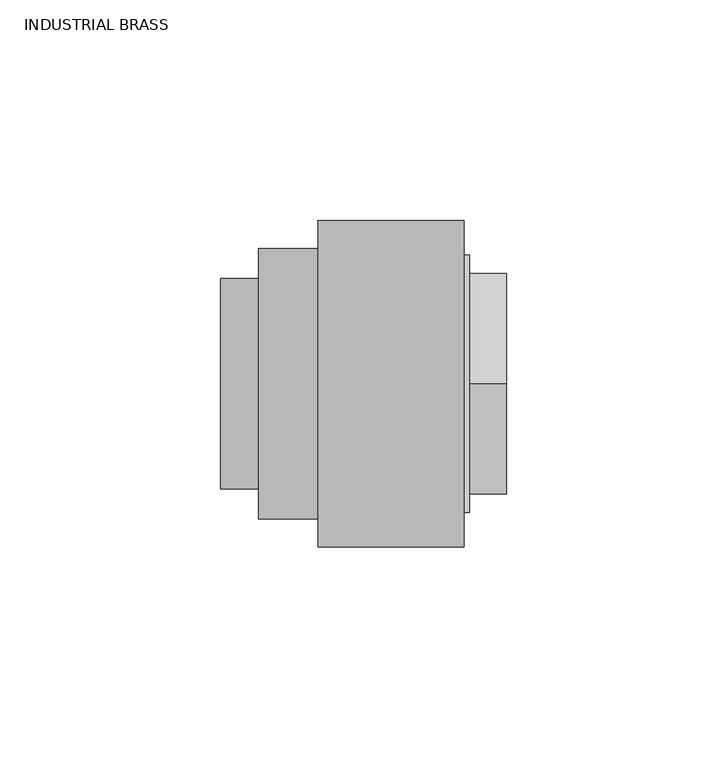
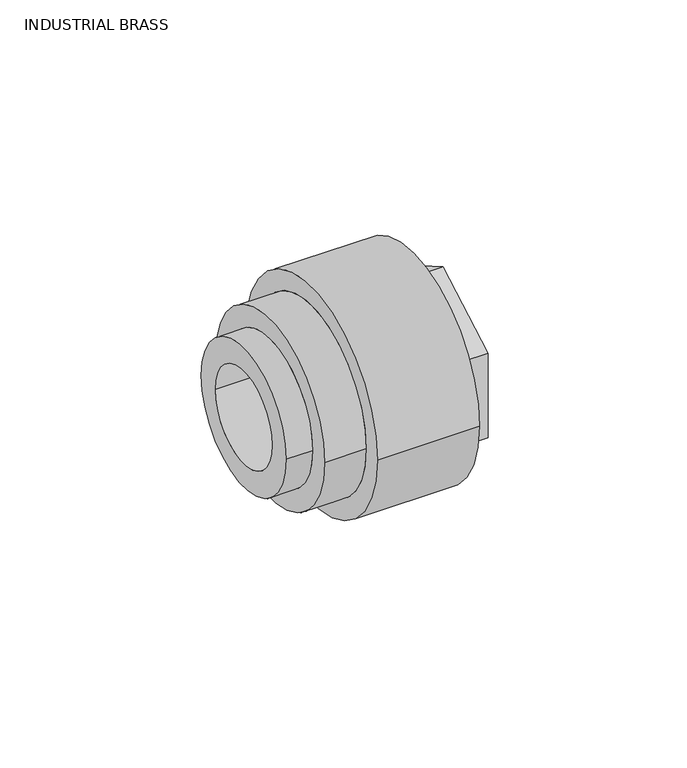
"""IFC4 building model written with IfcOpenShell, lengths in millimetres: pipe fitting geometry, Aquatherm - Flow Meter Well : INDUSTRIAL BRASS."""

from ifc_helpers import new_model, si_unit, frame, origin, place, context, project, spatial, polyline, circle_curve, source, transform, mapped, element, save
from ifc_brep_helpers import plane_surface, cylinder_surface, revolved_surface, advanced_brep


def industrial_brass_1ba0aa93(model_context):
    return source(origin(), model_context, "Body", "AdvancedBrep", [
        advanced_brep(
        [(37.87775, 19.05, 0.0), (37.87775, -19.05, 0.0), (53.5543125, -19.05, 0.0), (53.5543125, 19.05, 0.0), (37.87775, 19.84375, 0.0), (37.87775, -19.84375, 0.0), (34.70275, 19.84375, 0.0), (34.70275, -19.84375, 0.0), (34.70275, 15.875, 0.0), (34.70275, -15.875, 0.0), (31.52775, 15.875, 0.0), (31.52775, -15.875, 0.0), (31.52775, 30.607, 0.0), (31.52775, -30.607, 0.0), (46.609, 30.607, 0.0), (46.609, -30.607, 0.0), (56.134, 19.84375, 0.0), (56.134, -19.84375, 0.0), (56.134, -25.019, 0.0), (56.134, -25.019, -14.4447264), (56.134, 0.0, -28.8894528), (56.134, 25.019, -14.4447264), (56.134, 25.019, 0.0), (56.134, 25.019, 14.4447264), (56.134, 0.0, 28.8894528), (56.134, -25.019, 14.4447264), (46.609, 29.21, 0.0), (46.609, -29.21, 0.0), (47.799625, 29.21, 0.0), (47.799625, -29.21, 0.0), (47.799625, 0.0, -28.8894528), (47.799625, -25.019, -14.4447264), (47.799625, -25.019, 14.4447264), (47.799625, 0.0, 28.8894528), (47.799625, 25.019, 14.4447264), (47.799625, 25.019, -14.4447264)],
        [
            (0, 1, circle_curve(frame((37.87775, 0.0, 0.0), z_axis=(-1.0, 0.0, 0.0), x_axis=(0.0, -1.0, 0.0)), 19.05)),
            (1, 2),
            (2, 3, circle_curve(frame((53.5543125, 0.0, 0.0), z_axis=(1.0, 0.0, 0.0), x_axis=(0.0, -1.0, 0.0)), 19.05)),
            (3, 0),
            (1, 0, circle_curve(frame((37.87775, 0.0, 0.0), z_axis=(-1.0, 0.0, 0.0), x_axis=(0.0, -1.0, 0.0)), 19.05)),
            (3, 2, circle_curve(frame((53.5543125, 0.0, 0.0), z_axis=(1.0, 0.0, 0.0), x_axis=(0.0, -1.0, 0.0)), 19.05)),
            (0, 4),
            (4, 5, circle_curve(frame((37.87775, 0.0, 0.0), z_axis=(-1.0, 0.0, 0.0), x_axis=(0.0, -1.0, 0.0)), 19.84375)),
            (5, 1),
            (5, 4, circle_curve(frame((37.87775, 0.0, 0.0), z_axis=(-1.0, 0.0, 0.0), x_axis=(0.0, -1.0, 0.0)), 19.84375)),
            (4, 6),
            (6, 7, circle_curve(frame((34.70275, 0.0, 0.0), z_axis=(-1.0, 0.0, 0.0), x_axis=(0.0, -1.0, 0.0)), 19.84375)),
            (7, 5),
            (7, 6, circle_curve(frame((34.70275, 0.0, 0.0), z_axis=(-1.0, 0.0, 0.0), x_axis=(0.0, -1.0, 0.0)), 19.84375)),
            (6, 8),
            (8, 9, circle_curve(frame((34.70275, 0.0, 0.0), z_axis=(-1.0, 0.0, 0.0), x_axis=(0.0, -1.0, 0.0)), 15.875)),
            (9, 7),
            (9, 8, circle_curve(frame((34.70275, 0.0, 0.0), z_axis=(-1.0, 0.0, 0.0), x_axis=(0.0, -1.0, 0.0)), 15.875)),
            (8, 10),
            (10, 11, circle_curve(frame((31.52775, 0.0, 0.0), z_axis=(-1.0, 0.0, 0.0), x_axis=(0.0, -1.0, 0.0)), 15.875)),
            (11, 9),
            (11, 10, circle_curve(frame((31.52775, 0.0, 0.0), z_axis=(-1.0, 0.0, 0.0), x_axis=(0.0, -1.0, 0.0)), 15.875)),
            (10, 12),
            (12, 13, circle_curve(frame((31.52775, 0.0, 0.0), z_axis=(-1.0, 0.0, 0.0), x_axis=(0.0, -1.0, 0.0)), 30.607)),
            (13, 11),
            (13, 12, circle_curve(frame((31.52775, 0.0, 0.0), z_axis=(-1.0, 0.0, 0.0), x_axis=(0.0, -1.0, 0.0)), 30.607)),
            (12, 14),
            (14, 15, circle_curve(frame((46.609, 0.0, 0.0), z_axis=(-1.0, 0.0, 0.0), x_axis=(0.0, -1.0, 0.0)), 30.607)),
            (15, 13),
            (15, 14, circle_curve(frame((46.609, 0.0, 0.0), z_axis=(-1.0, 0.0, 0.0), x_axis=(0.0, -1.0, 0.0)), 30.607)),
            (16, 17, circle_curve(frame((56.134, 0.0, 0.0), z_axis=(-1.0, 0.0, 0.0), x_axis=(0.0, -1.0, 0.0)), 19.84375)),
            (17, 18),
            (18, 19),
            (19, 20),
            (20, 21),
            (21, 22),
            (22, 16),
            (17, 16, circle_curve(frame((56.134, 0.0, 0.0), z_axis=(-1.0, 0.0, 0.0), x_axis=(0.0, -1.0, 0.0)), 19.84375)),
            (22, 23),
            (23, 24),
            (24, 25),
            (25, 18),
            (2, 17),
            (16, 3),
            (14, 26),
            (26, 27, circle_curve(frame((46.609, 0.0, 0.0), z_axis=(-1.0, 0.0, 0.0), x_axis=(0.0, -1.0, 0.0)), 29.21)),
            (27, 15),
            (27, 26, circle_curve(frame((46.609, 0.0, 0.0), z_axis=(-1.0, 0.0, 0.0), x_axis=(0.0, -1.0, 0.0)), 29.21)),
            (26, 28),
            (28, 29, circle_curve(frame((47.799625, 0.0, 0.0), z_axis=(-1.0, 0.0, 0.0), x_axis=(0.0, -1.0, 0.0)), 29.21)),
            (29, 27),
            (29, 28, circle_curve(frame((47.799625, 0.0, 0.0), z_axis=(-1.0, 0.0, 0.0), x_axis=(0.0, -1.0, 0.0)), 29.21)),
            (30, 31),
            (31, 32),
            (32, 33),
            (33, 34),
            (34, 35),
            (35, 30),
            (35, 21),
            (20, 30),
            (34, 23),
            (33, 24),
            (32, 25),
            (31, 19),
        ],
        [
            revolved_surface(polyline([(53.5543125, -19.05, 0.0), (37.87775, -19.05, 0.0)]), (57.9672251, 0.0, 0.0), (1.0, 0.0, 0.0)),
            plane_surface(frame((37.87775, 0.0, 0.0), z_axis=(-1.0, 0.0, 0.0), x_axis=(0.0, -1.0, 0.0))),
            revolved_surface(polyline([(37.87775, -19.84375, 0.0), (34.70275, -19.84375, 0.0)]), (57.9672251, 0.0, 0.0), (1.0, 0.0, 0.0)),
            plane_surface(frame((34.70275, 0.0, 0.0), z_axis=(1.0, 0.0, 0.0), x_axis=(0.0, -1.0, 0.0))),
            revolved_surface(polyline([(34.70275, -15.875, 0.0), (31.52775, -15.875, 0.0)]), (57.9672251, 0.0, 0.0), (1.0, 0.0, 0.0)),
            plane_surface(frame((31.52775, 0.0, 0.0), z_axis=(-1.0, 0.0, 0.0), x_axis=(0.0, -1.0, 0.0))),
            cylinder_surface(frame((57.9672251, 0.0, 0.0), z_axis=(1.0, 0.0, 0.0), x_axis=(0.0, -1.0, 0.0)), 30.607),
            plane_surface(frame((56.134, 0.0, 0.0), z_axis=(1.0, 0.0, 0.0), x_axis=(0.0, -1.0, 0.0))),
            revolved_surface(polyline([(56.134, -19.84375, 0.0), (53.5543125, -19.05, 0.0)]), (57.9672251, 0.0, 0.0), (1.0, 0.0, 0.0)),
            plane_surface(frame((46.609, 0.0, 0.0), z_axis=(1.0, 0.0, 0.0), x_axis=(0.0, -1.0, 0.0))),
            cylinder_surface(frame((57.9672251, 0.0, 0.0), z_axis=(1.0, 0.0, 0.0), x_axis=(0.0, -1.0, 0.0)), 29.21),
            plane_surface(frame((47.799625, 25.019, -14.4447264), z_axis=(1.0000000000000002, 0.0, 0.0), x_axis=(0.0, 0.8660254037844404, 0.4999999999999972))),
            plane_surface(frame((47.799625, 0.0, -28.8894528), z_axis=(0.0, 0.4999999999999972, -0.8660254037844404), x_axis=(1.0, 0.0, 0.0))),
            plane_surface(frame((47.799625, 25.019, -14.4447264), z_axis=(0.0, 1.0, 0.0), x_axis=(1.0, 0.0, 0.0))),
            plane_surface(frame((47.799625, 25.019, 14.4447264), z_axis=(0.0, 0.5000000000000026, 0.8660254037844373), x_axis=(1.0, 0.0, 0.0))),
            plane_surface(frame((47.799625, 0.0, 28.8894528), z_axis=(0.0, -0.4999999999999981, 0.8660254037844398), x_axis=(1.0, 0.0, 0.0))),
            plane_surface(frame((47.799625, -25.019, 14.4447264), z_axis=(0.0, -1.0, 0.0), x_axis=(1.0, 0.0, 0.0))),
            plane_surface(frame((47.799625, -25.019, -14.4447264), z_axis=(0.0, -0.5000000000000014, -0.8660254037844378), x_axis=(1.0, 0.0, 0.0))),
        ],
        [
            (0, [[1, 2, 3, 4]]),
            (0, [[-2, 5, -4, 6]]),
            (1, [[-1, 7, 8, 9]]),
            (1, [[-5, -9, 10, -7]]),
            (2, [[-8, 11, 12, 13]]),
            (2, [[-10, -13, 14, -11]]),
            (3, [[-12, 15, 16, 17]]),
            (3, [[-14, -17, 18, -15]]),
            (4, [[-16, 19, 20, 21]]),
            (4, [[-18, -21, 22, -19]]),
            (5, [[-20, 23, 24, 25]]),
            (5, [[-22, -25, 26, -23]]),
            (6, [[-24, 27, 28, 29]]),
            (6, [[-26, -29, 30, -27]]),
            (7, [[31, 32, 33, 34, 35, 36, 37]]),
            (7, [[38, -37, 39, 40, 41, 42, -32]]),
            (8, [[-3, 43, -31, 44]]),
            (8, [[-6, -44, -38, -43]]),
            (9, [[-28, 45, 46, 47]]),
            (9, [[-30, -47, 48, -45]]),
            (10, [[-46, 49, 50, 51]]),
            (10, [[-48, -51, 52, -49]]),
            (11, [[-50, -52], [53, 54, 55, 56, 57, 58]]),
            (12, [[-58, 59, -35, 60]]),
            (13, [[-57, 61, -39, -36, -59]]),
            (14, [[-56, 62, -40, -61]]),
            (15, [[-55, 63, -41, -62]]),
            (16, [[-54, 64, -33, -42, -63]]),
            (17, [[-53, -60, -34, -64]]),
        ],
    ),
        advanced_brep(
        [(-8.5810811, 23.8125, 0.0), (-8.5810811, -23.8125, 0.0), (-8.5810811, 15.875, 0.0), (-8.5810811, -15.875, 0.0), (31.52775, 30.607, 0.0), (31.52775, -30.607, 0.0), (31.52775, 15.875, 0.0), (31.52775, -15.875, 0.0), (0.0, 23.8125, 0.0), (0.0, -23.8125, 0.0), (46.609, 36.957, 0.0), (46.609, -36.957, 0.0), (46.609, 30.607, 0.0), (46.609, -30.607, 0.0), (13.462, 36.957, 0.0), (13.462, -36.957, 0.0), (13.462, -30.607, 0.0), (13.462, 30.607, 0.0), (0.0, 30.607, 0.0), (0.0, -30.607, 0.0)],
        [
            (0, 1, circle_curve(frame((-8.5810811, 0.0, 0.0), z_axis=(-1.0, 0.0, 0.0), x_axis=(0.0, -1.0, 0.0)), 23.8125)),
            (1, 0, circle_curve(frame((-8.5810811, 0.0, 0.0), z_axis=(-1.0, 0.0, 0.0), x_axis=(0.0, -1.0, 0.0)), 23.8125)),
            (2, 3, circle_curve(frame((-8.5810811, 0.0, 0.0), z_axis=(1.0, 0.0, 0.0), x_axis=(0.0, -1.0, 0.0)), 15.875)),
            (3, 2, circle_curve(frame((-8.5810811, 0.0, 0.0), z_axis=(1.0, 0.0, 0.0), x_axis=(0.0, -1.0, 0.0)), 15.875)),
            (4, 5, circle_curve(frame((31.52775, 0.0, 0.0), z_axis=(1.0, 0.0, 0.0), x_axis=(0.0, -1.0, 0.0)), 30.607)),
            (5, 4, circle_curve(frame((31.52775, 0.0, 0.0), z_axis=(1.0, 0.0, 0.0), x_axis=(0.0, -1.0, 0.0)), 30.607)),
            (6, 7, circle_curve(frame((31.52775, 0.0, 0.0), z_axis=(-1.0, 0.0, 0.0), x_axis=(0.0, -1.0, 0.0)), 15.875)),
            (7, 6, circle_curve(frame((31.52775, 0.0, 0.0), z_axis=(-1.0, 0.0, 0.0), x_axis=(0.0, -1.0, 0.0)), 15.875)),
            (2, 6),
            (7, 3),
            (0, 8),
            (8, 9, circle_curve(frame((0.0, 0.0, 0.0), z_axis=(-1.0, 0.0, 0.0), x_axis=(0.0, -1.0, 0.0)), 23.8125)),
            (9, 1),
            (9, 8, circle_curve(frame((0.0, 0.0, 0.0), z_axis=(-1.0, 0.0, 0.0), x_axis=(0.0, -1.0, 0.0)), 23.8125)),
            (10, 11, circle_curve(frame((46.609, 0.0, 0.0), z_axis=(1.0, 0.0, 0.0), x_axis=(0.0, -1.0, 0.0)), 36.957)),
            (11, 10, circle_curve(frame((46.609, 0.0, 0.0), z_axis=(1.0, 0.0, 0.0), x_axis=(0.0, -1.0, 0.0)), 36.957)),
            (12, 13, circle_curve(frame((46.609, 0.0, 0.0), z_axis=(-1.0, 0.0, 0.0), x_axis=(0.0, -1.0, 0.0)), 30.607)),
            (13, 12, circle_curve(frame((46.609, 0.0, 0.0), z_axis=(-1.0, 0.0, 0.0), x_axis=(0.0, -1.0, 0.0)), 30.607)),
            (14, 15, circle_curve(frame((13.462, 0.0, 0.0), z_axis=(-1.0, 0.0, 0.0), x_axis=(0.0, -1.0, 0.0)), 36.957)),
            (15, 14, circle_curve(frame((13.462, 0.0, 0.0), z_axis=(-1.0, 0.0, 0.0), x_axis=(0.0, -1.0, 0.0)), 36.957)),
            (16, 17, circle_curve(frame((13.462, 0.0, 0.0), z_axis=(1.0, 0.0, 0.0), x_axis=(0.0, -1.0, 0.0)), 30.607)),
            (17, 16, circle_curve(frame((13.462, 0.0, 0.0), z_axis=(1.0, 0.0, 0.0), x_axis=(0.0, -1.0, 0.0)), 30.607)),
            (13, 5),
            (4, 12),
            (11, 15),
            (14, 10),
            (18, 19, circle_curve(frame((0.0, 0.0, 0.0), z_axis=(-1.0, 0.0, 0.0), x_axis=(0.0, -1.0, 0.0)), 30.607)),
            (19, 18, circle_curve(frame((0.0, 0.0, 0.0), z_axis=(-1.0, 0.0, 0.0), x_axis=(0.0, -1.0, 0.0)), 30.607)),
            (18, 17),
            (16, 19),
        ],
        [
            plane_surface(frame((-8.5810811, -15.875, 0.0), z_axis=(-1.0, 0.0, 0.0), x_axis=(0.0, 0.0, -1.0))),
            plane_surface(frame((31.52775, -15.875, 0.0), z_axis=(1.0, 0.0, 0.0), x_axis=(0.0, 0.0, 1.0))),
            revolved_surface(polyline([(31.52775, -15.875, 0.0), (-8.581081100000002, -15.875, 0.0)]), (31.52775, 0.0, 0.0), (1.0, 0.0, 0.0)),
            cylinder_surface(frame((0.0, 0.0, 0.0), z_axis=(-1.0, 0.0, 0.0), x_axis=(0.0, -1.0, 0.0)), 23.8125),
            plane_surface(frame((46.609, -30.607, 0.0), z_axis=(1.0, 0.0, 0.0), x_axis=(0.0, 0.0, 1.0))),
            plane_surface(frame((13.462, -30.607, 0.0), z_axis=(-1.0, 0.0, 0.0), x_axis=(0.0, 0.0, -1.0))),
            revolved_surface(polyline([(46.609, -30.607, 0.0), (31.52775, -30.607, 0.0)]), (46.609, 0.0, 0.0), (1.0, 0.0, 0.0)),
            cylinder_surface(frame((0.0, 0.0, 0.0), z_axis=(-1.0, 0.0, 0.0), x_axis=(0.0, -1.0, 0.0)), 36.957),
            plane_surface(frame((0.0, -23.8125, 0.0), z_axis=(-1.0, 0.0, 0.0), x_axis=(0.0, 0.0, -1.0))),
            cylinder_surface(frame((0.0, 0.0, 0.0), z_axis=(-1.0, 0.0, 0.0), x_axis=(0.0, -1.0, 0.0)), 30.607),
        ],
        [
            (0, [[1, 2], [3, 4]]),
            (1, [[5, 6], [7, 8]]),
            (2, [[-3, 9, -8, 10]]),
            (2, [[-4, -10, -7, -9]]),
            (3, [[-1, 11, 12, 13]]),
            (3, [[-2, -13, 14, -11]]),
            (4, [[15, 16], [17, 18]]),
            (5, [[19, 20], [21, 22]]),
            (6, [[-18, 23, -5, 24]]),
            (6, [[-17, -24, -6, -23]]),
            (7, [[-16, 25, -19, 26]]),
            (7, [[-15, -26, -20, -25]]),
            (8, [[27, 28], [-12, -14]]),
            (9, [[-27, 29, -21, 30]]),
            (9, [[-28, -30, -22, -29]]),
        ],
    ),
    ])


if __name__ == "__main__":
    model = new_model("IFC4")
    model_context = context("Model", 3, world=origin())
    ifc_project = project(units=[si_unit("LENGTHUNIT", "METRE", prefix="MILLI")], contexts=[model_context])
    site = spatial("IfcSite", under=ifc_project)
    building = spatial("IfcBuilding", under=site)
    placement = place(None, origin())
    industrial_brass_shape = industrial_brass_1ba0aa93(model_context)
    element("IfcPipeFitting", 1, ObjectType="Aquatherm - Flow Meter Well : INDUSTRIAL BRASS", at=placement, inside=building, context=model_context, shape_type="MappedRepresentation", body=[
        mapped(industrial_brass_shape, transform((0.0, 0.0, 0.0), x_axis=(1.0, 0.0, 0.0), y_axis=(0.0, 1.0, 0.0), z_axis=(0.0, 0.0, 1.0))),
    ])
    save(model, "model.ifc")
